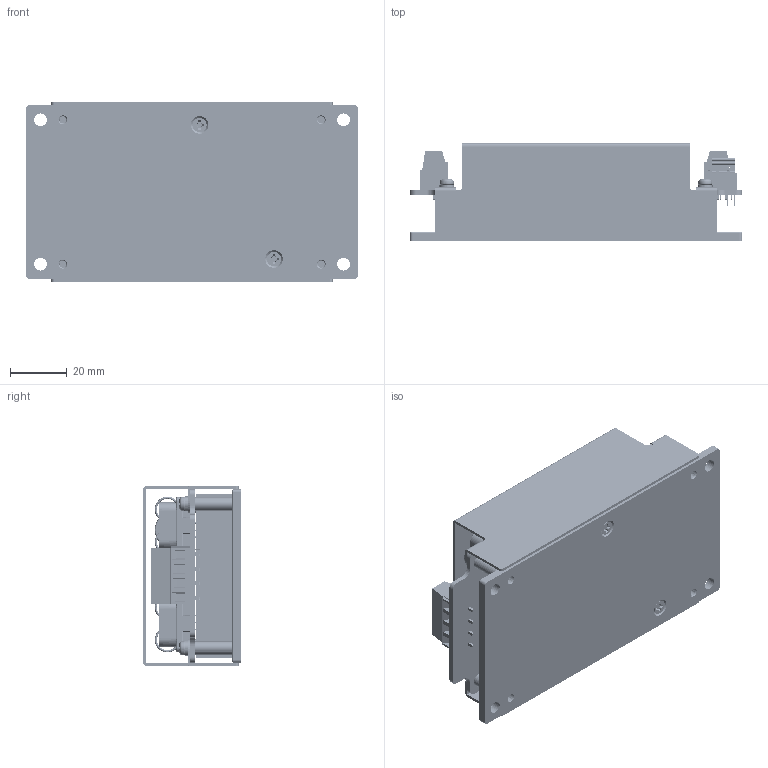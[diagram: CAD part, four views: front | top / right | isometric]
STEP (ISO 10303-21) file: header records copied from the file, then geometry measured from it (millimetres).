
FILE_DESCRIPTION (( 'STEP AP203' ), '1' );
FILE_NAME ('CQB150W-110SXX-CMFD 2023.07.19.STEP', '2023-07-20T00:29:18', ( '' ), ( '' ), 'SwSTEP 2.0', 'SolidWorks 2020', '' );
FILE_SCHEMA (( 'CONFIG_CONTROL_DESIGN' ));
Products named in the file (1): CQB150W-110SXX-CMFD 2023.07.19
Bounding box: 116.84 x 34.3 x 63.36 mm (x, y, z)
Volume: 86339.3 mm3; surface area: 75977 mm2
Topology: 10 solids, 10 shells, 2148 faces, 6678 edges, 4190 vertices
Faces by surface type: plane 1346, cylinder 343, bspline 285, cone 95, torus 45, sphere 34
Full cylindrical faces by diameter (mm): 0.5 x8, 0.8 x6, 0.9 x4, 1 x17, 1.15 x6, 1.2 x3, 1.4 x4, 1.5 x4, 1.65 x2, 1.8 x2, 3.2 x13, 3.25 x1, 3.8 x8, 4 x10, 4.3 x6, 4.445 x1, 4.5 x7, 4.7 x10, 5 x4, 7.8 x1, 8 x1, 8.8 x1, 12.6 x2
Entity records: 284546 total; most frequent: CARTESIAN_POINT 230333, ORIENTED_EDGE 12288, DIRECTION 9177, EDGE_CURVE 6144, VERTEX_POINT 4112, VECTOR 3725, LINE 3725, EDGE_LOOP 2870
